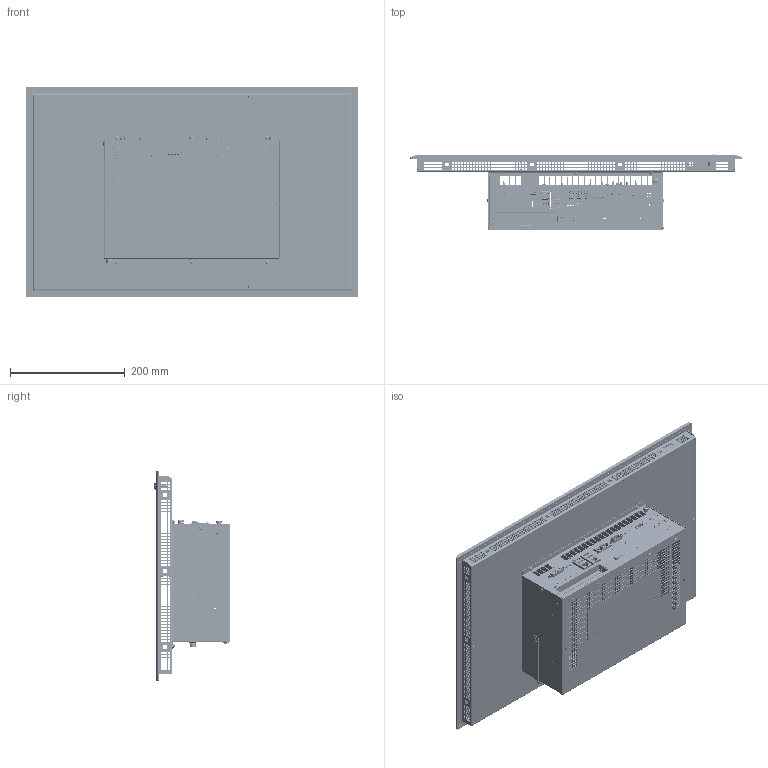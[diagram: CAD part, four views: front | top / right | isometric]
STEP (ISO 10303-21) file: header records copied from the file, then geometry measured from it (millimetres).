
FILE_DESCRIPTION (( 'STEP AP214' ), '1' );
FILE_NAME ('C6P34-Panel_215W_Res_S1.STEP', '2019-09-20T12:01:11', ( '' ), ( '' ), 'SwSTEP 2.0', 'SolidWorks 2018', '' );
FILE_SCHEMA (( 'AUTOMOTIVE_DESIGN' ));
Length unit declared in the file: millimetre
Products named in the file (160): 51524089; 59702267; 56636578; 21410046; 69111028; 66320001; 14300028; 65720030; 52536147; 69111027; 23330039; piazzuola_de800_di370; 14300025; 7359_056; 66320015; 21410052; 21408088; 66320016; 58702102; 48000059; 62920002; 57902482; 21509026; 21502089; 52912002; 65720029; 58502114; 65720078; 21405029; 62920009; 7397_227; 69112004; 21404036; 56636578_Default<A macchina>; 21614000; 52536147_Default<A macchina>; D02201703; C6P34-Panel_215W_Res_S1; 55202070; 58702102_Default<A macchina>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
Assembly tree (113 placements, depth 4):
  51524089
  59702267
  56636578
  21410046
  69111028
Bounding box: 578.5 x 132.24 x 367 mm (x, y, z)
Volume: 1841033 mm3; surface area: 1930895.3 mm2
Topology: 220 solids, 238 shells, 28519 faces, 80311 edges, 52664 vertices
Faces by surface type: plane 22433, cylinder 4587, bspline 775, cone 591, torus 113, sphere 20
Full cylindrical faces by diameter (mm): 0.3 x9, 0.434 x1, 0.6 x30, 0.65 x6, 0.7 x165, 0.8 x36, 0.85 x66, 0.9 x175, 0.95 x11, 1 x119, 1.1 x3, 1.2 x10, 1.32 x2, 1.35 x4, 1.4 x8, 1.5 x6, 1.6 x7, 1.7 x4, 1.8 x3, 1.9 x4, 1.95 x4, 2 x1, 2.05 x1, 2.3 x18, 2.4 x9, 2.5 x32, 2.6 x5, 2.8 x3, 2.874 x1, 3 x74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
Entity records: 855643 total; most frequent: CARTESIAN_POINT 178574, ORIENTED_EDGE 139950, DIRECTION 123797, EDGE_CURVE 70365, VECTOR 60153, LINE 60153, VERTEX_POINT 46849, EDGE_LOOP 33147
